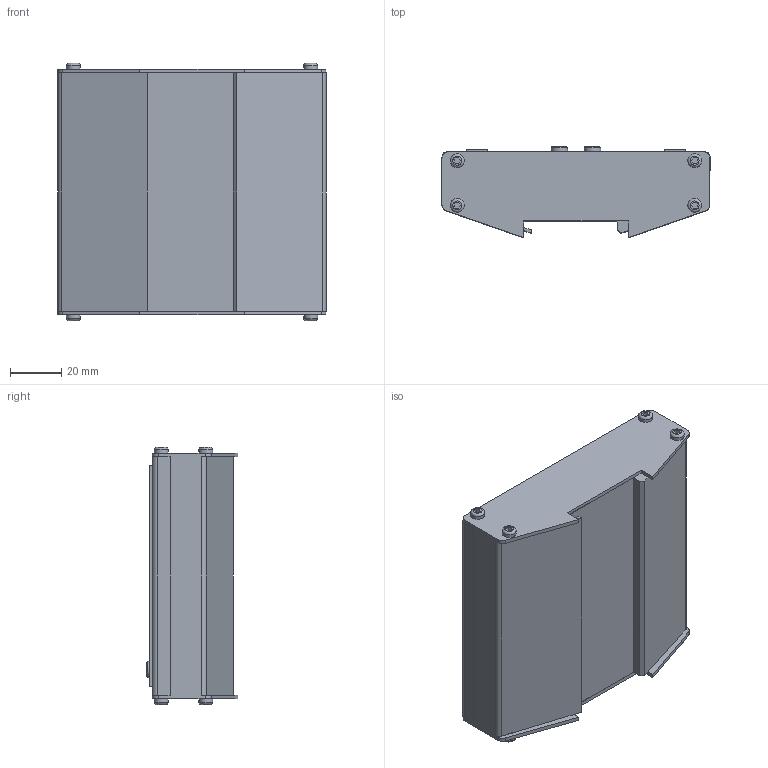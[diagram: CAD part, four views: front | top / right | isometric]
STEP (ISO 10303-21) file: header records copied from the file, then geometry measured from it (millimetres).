
FILE_DESCRIPTION(/* description */ ('Alibre Inc.'),/* implementation_level */ '2;1');
FILE_NAME(/* name */ 'export0',/* time_stamp */ '2016-03-04T14:56:02+01:00',/* author */ (''),/* organization */ (''),/* preprocessor_version */ 'ST-DEVELOPER v14',/* originating_system */ 'Alibre',/* authorisation */ '');
FILE_SCHEMA (('CONFIG_CONTROL_DESIGN'));
Length unit declared in the file: centimetre
Products named in the file (1): ID_1
Bounding box: 105.03 x 36 x 100.85 mm (x, y, z)
Volume: 267197.4 mm3; surface area: 36429.8 mm2
Topology: 1 solids, 5 shells, 1977 faces, 5309 edges, 3510 vertices
Faces by surface type: plane 1209, bspline 476, cylinder 236, cone 46, torus 10
Full cylindrical faces by diameter (mm): 3 x22, 3.1 x14, 3.3 x8, 5.43 x8, 6.5 x2, 6.8 x2
Entity records: 69601 total; most frequent: CARTESIAN_POINT 25707, ORIENTED_EDGE 10402, DIRECTION 6054, EDGE_CURVE 5201, VERTEX_POINT 3468, VECTOR 3415, LINE 3415, EDGE_LOOP 2227
